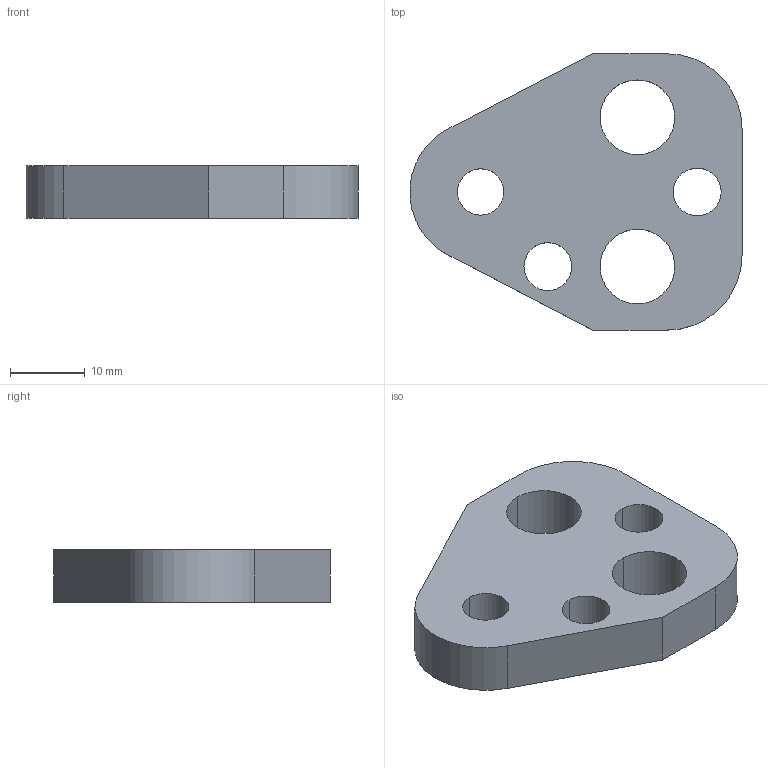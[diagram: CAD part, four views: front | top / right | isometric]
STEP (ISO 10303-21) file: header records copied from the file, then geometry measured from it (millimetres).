
FILE_DESCRIPTION(/* description */ (''),/* implementation_level */ '2;1');
FILE_NAME(/* name */ '3d_bpc10-7_03424_r00.stp',/* time_stamp */ '2011-01-10T14:17:11+09:00',/* author */ ('MISUMI'),/* organization */ (''),/* preprocessor_version */ 'ST-DEVELOPER v11',/* originating_system */ 'UGS - NX 5.0',/* authorisation */ '');
FILE_SCHEMA (('CONFIG_CONTROL_DESIGN'));
Length unit declared in the file: millimetre
Products named in the file (1): 3d_bpc10-7_03424_r00
Bounding box: 44.47 x 37 x 7 mm (x, y, z)
Volume: 7202.8 mm3; surface area: 3845.4 mm2
Topology: 1 solids, 1 shells, 20 faces, 54 edges, 36 vertices
Faces by surface type: cylinder 13, plane 7
Entity records: 750 total; most frequent: DIRECTION 122, CARTESIAN_POINT 111, ORIENTED_EDGE 108, EDGE_CURVE 54, AXIS2_PLACEMENT_3D 47, VERTEX_POINT 36, EDGE_LOOP 30, LINE 28
